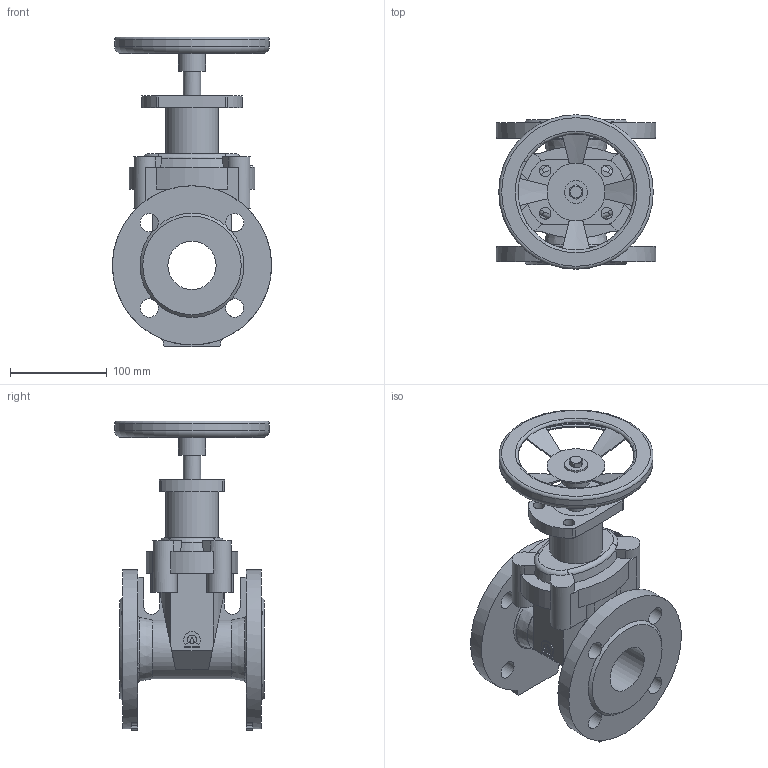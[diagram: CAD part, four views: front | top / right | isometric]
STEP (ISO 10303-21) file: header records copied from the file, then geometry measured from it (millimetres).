
FILE_DESCRIPTION(('STEP AP203'), '1');
FILE_NAME('Çàäâèæêà 47GV.M DN50 ñ ìàõîâèêîì', '', ('UNSPECIFIED'), ('UNSPECIFIED'), 'ASCON STEP Converter 1.6', 'ASCON Math Kernel', '');
FILE_SCHEMA(('CONFIG_CONTROL_DESIGN'));
Length unit declared in the file: millimetre
Bounding box: 165 x 160 x 321 mm (x, y, z)
Volume: 1673879.8 mm3; surface area: 266020.6 mm2
Topology: 1 solids, 1 shells, 247 faces, 681 edges, 440 vertices
Faces by surface type: plane 129, cylinder 84, cone 20, torus 14
Full cylindrical faces by diameter (mm): 12 x4, 18 x1, 19 x8, 24 x1, 28 x1, 50 x1, 52 x1, 55 x1, 123 x1, 157 x1, 160 x1, 165 x2
Entity records: 10988 total; most frequent: CARTESIAN_POINT 2679, DIRECTION 1336, ORIENTED_EDGE 1292, EDGE_CURVE 646, AXIS2_PLACEMENT_3D 512, VERTEX_POINT 440, EDGE_LOOP 320, LINE 312
